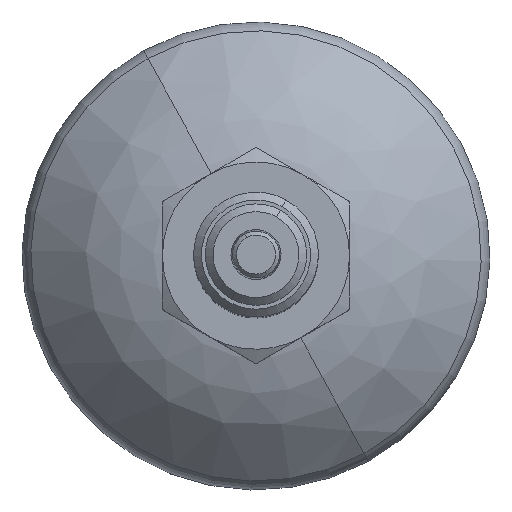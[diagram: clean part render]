
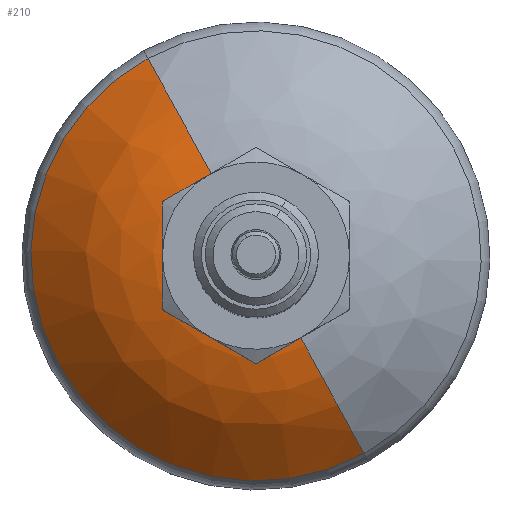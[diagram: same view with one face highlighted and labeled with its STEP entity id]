
A CAD part, top view. The second image highlights one B-rep face of the part: STEP entity #210.
In plain terms, the highlighted face is a revolution surface.
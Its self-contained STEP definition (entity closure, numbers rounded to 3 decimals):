
#129=CARTESIAN_POINT('Vertex',(-13.838,25.33,6.173)) ;
#136=CARTESIAN_POINT('Vertex',(13.838,-25.33,6.173)) ;
#151=CARTESIAN_POINT('Axis2P3D Location',(0.,0.,6.173)) ;
#164=CARTESIAN_POINT('Control Point',(-13.838,25.33,6.173)) ;
#165=CARTESIAN_POINT('Control Point',(-12.037,22.034,10.747)) ;
#166=CARTESIAN_POINT('Control Point',(-9.657,17.677,14.335)) ;
#167=CARTESIAN_POINT('Control Point',(-6.9,12.63,16.444)) ;
#168=CARTESIAN_POINT('Control Point',(-4.075,7.459,17.)) ;
#169=CARTESIAN_POINT('Axis1P Location',(0.,0.,-12.867)) ;
#173=CARTESIAN_POINT('Axis2P3D Location',(2.724,-4.985,-12.867)) ;
#177=CARTESIAN_POINT('Vertex',(4.075,-7.459,17.)) ;
#180=CARTESIAN_POINT('Axis2P3D Location',(-2.724,4.985,-12.867)) ;
#184=CARTESIAN_POINT('Vertex',(-4.075,7.459,17.)) ;
#199=CARTESIAN_POINT('Axis2P3D Location',(0.,0.,17.)) ;
#152=DIRECTION('Axis2P3D Direction',(0.,0.,1.)) ;
#170=DIRECTION('Axis1P Direction',(-0.,-0.,-1.)) ;
#174=DIRECTION('Axis2P3D Direction',(-0.878,-0.479,0.)) ;
#181=DIRECTION('Axis2P3D Direction',(0.878,0.479,-0.)) ;
#200=DIRECTION('Axis2P3D Direction',(0.,0.,1.)) ;
#153=AXIS2_PLACEMENT_3D('Circle Axis2P3D',#151,#152,$) ;
#175=AXIS2_PLACEMENT_3D('Circle Axis2P3D',#173,#174,$) ;
#182=AXIS2_PLACEMENT_3D('Circle Axis2P3D',#180,#181,$) ;
#201=AXIS2_PLACEMENT_3D('Circle Axis2P3D',#199,#200,$) ;
#205=ORIENTED_EDGE('',*,*,#186,.F.) ;
#206=ORIENTED_EDGE('',*,*,#155,.T.) ;
#207=ORIENTED_EDGE('',*,*,#179,.T.) ;
#208=ORIENTED_EDGE('',*,*,#203,.F.) ;
#210=ADVANCED_FACE('PartBody',(#209),#172,.F.) ;
#171=AXIS1_PLACEMENT('Revolution Surface Axis1P',#169,#170) ;
#163=B_SPLINE_CURVE_WITH_KNOTS('',4,(#164,#165,#166,#167,#168),.UNSPECIFIED.,.F.,.U.,(5,5),(20.628,44.301),.UNSPECIFIED.) ;
#154=CIRCLE('generated circle',#153,28.864) ;
#176=CIRCLE('generated circle',#175,30.) ;
#183=CIRCLE('generated circle',#182,30.) ;
#202=CIRCLE('generated circle',#201,8.5) ;
#155=EDGE_CURVE('',#130,#137,#154,.T.) ;
#179=EDGE_CURVE('',#137,#178,#176,.T.) ;
#186=EDGE_CURVE('',#130,#185,#183,.T.) ;
#203=EDGE_CURVE('',#185,#178,#202,.T.) ;
#204=EDGE_LOOP('',(#205,#206,#207,#208)) ;
#209=FACE_OUTER_BOUND('',#204,.T.) ;
#172=SURFACE_OF_REVOLUTION('homeo Torus',#163,#171) ;
#130=VERTEX_POINT('',#129) ;
#137=VERTEX_POINT('',#136) ;
#178=VERTEX_POINT('',#177) ;
#185=VERTEX_POINT('',#184) ;
